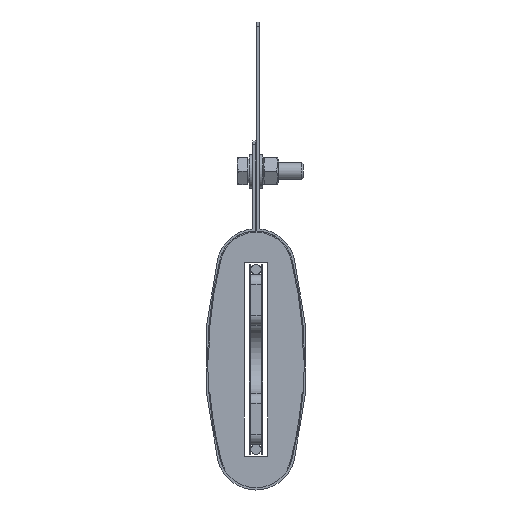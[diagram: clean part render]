
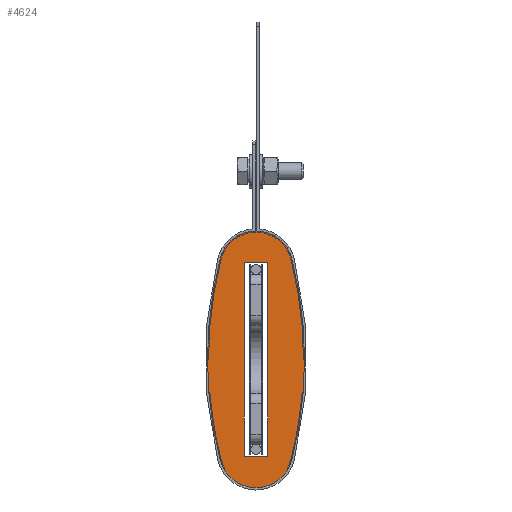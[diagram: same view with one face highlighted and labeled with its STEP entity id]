
A CAD part, front view. The second image highlights one B-rep face of the part: STEP entity #4624.
In plain terms, the highlighted planar face has unit normal (0, -1, 0).
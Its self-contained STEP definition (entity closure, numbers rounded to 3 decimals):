
#428=PLANE($,#5096);
#500=CIRCLE($,#4814,119.768);
#502=CIRCLE($,#4817,119.768);
#507=CIRCLE($,#4823,10.644);
#514=CIRCLE($,#4831,10.644);
#516=CIRCLE($,#4834,10.644);
#521=CIRCLE($,#4842,119.768);
#524=CIRCLE($,#4846,119.768);
#532=CIRCLE($,#4858,120.068);
#538=CIRCLE($,#4867,10.944);
#544=CIRCLE($,#4876,120.068);
#555=CIRCLE($,#4890,10.944);
#573=CIRCLE($,#4916,119.315);
#575=CIRCLE($,#4919,10.625);
#578=CIRCLE($,#4923,119.315);
#579=CIRCLE($,#4925,119.315);
#670=CIRCLE($,#5086,10.625);
#671=CIRCLE($,#5088,10.625);
#672=CIRCLE($,#5090,119.315);
#782=FACE_BOUND($,#1044,.T.);
#783=FACE_BOUND($,#1045,.T.);
#784=FACE_BOUND($,#1046,.T.);
#785=FACE_BOUND($,#1047,.T.);
#786=FACE_BOUND($,#1048,.T.);
#1044=EDGE_LOOP($,(#3765,#3766,#3767,#3768,#3769,#3770));
#1045=EDGE_LOOP($,(#3771,#3772,#3773,#3774));
#1046=EDGE_LOOP($,(#3775,#3776,#3777,#3778));
#1047=EDGE_LOOP($,(#3779,#3780,#3781,#3782));
#1048=EDGE_LOOP($,(#3783,#3784,#3785,#3786));
#1407=LINE($,#7529,#1725);
#1411=LINE($,#7537,#1729);
#1414=LINE($,#7543,#1732);
#1417=LINE($,#7548,#1735);
#1725=VECTOR($,#6255,57.);
#1729=VECTOR($,#6261,7.);
#1732=VECTOR($,#6266,57.);
#1735=VECTOR($,#6271,7.);
#1915=VERTEX_POINT($,#6975);
#1916=VERTEX_POINT($,#6977);
#1918=VERTEX_POINT($,#6982);
#1920=VERTEX_POINT($,#6986);
#1925=VERTEX_POINT($,#7000);
#1936=VERTEX_POINT($,#7023);
#1938=VERTEX_POINT($,#7027);
#1940=VERTEX_POINT($,#7033);
#1947=VERTEX_POINT($,#7052);
#1950=VERTEX_POINT($,#7060);
#1959=VERTEX_POINT($,#7085);
#1960=VERTEX_POINT($,#7087);
#1970=VERTEX_POINT($,#7111);
#1976=VERTEX_POINT($,#7129);
#2001=VERTEX_POINT($,#7207);
#2003=VERTEX_POINT($,#7213);
#2005=VERTEX_POINT($,#7222);
#2096=VERTEX_POINT($,#7519);
#2097=VERTEX_POINT($,#7527);
#2098=VERTEX_POINT($,#7528);
#2101=VERTEX_POINT($,#7536);
#2103=VERTEX_POINT($,#7542);
#2401=EDGE_CURVE($,#1916,#1915,#500,.T.);
#2406=EDGE_CURVE($,#1918,#1920,#502,.T.);
#2413=EDGE_CURVE($,#1925,#1916,#507,.T.);
#2427=EDGE_CURVE($,#1936,#1938,#514,.T.);
#2430=EDGE_CURVE($,#1920,#1940,#516,.T.);
#2439=EDGE_CURVE($,#1938,#1947,#521,.T.);
#2442=EDGE_CURVE($,#1950,#1925,#524,.T.);
#2455=EDGE_CURVE($,#1960,#1959,#532,.T.);
#2466=EDGE_CURVE($,#1970,#1960,#538,.T.);
#2475=EDGE_CURVE($,#1976,#1970,#544,.T.);
#2491=EDGE_CURVE($,#1959,#1976,#555,.T.);
#2517=EDGE_CURVE($,#1918,#2001,#573,.T.);
#2520=EDGE_CURVE($,#1936,#2003,#575,.T.);
#2524=EDGE_CURVE($,#2003,#1947,#578,.T.);
#2525=EDGE_CURVE($,#1950,#2005,#579,.T.);
#2661=EDGE_CURVE($,#2005,#2096,#670,.T.);
#2663=EDGE_CURVE($,#2001,#1940,#671,.T.);
#2664=EDGE_CURVE($,#2096,#1915,#672,.T.);
#2665=EDGE_CURVE($,#2097,#2098,#1407,.T.);
#2669=EDGE_CURVE($,#2098,#2101,#1411,.T.);
#2672=EDGE_CURVE($,#2101,#2103,#1414,.T.);
#2675=EDGE_CURVE($,#2103,#2097,#1417,.T.);
#3765=ORIENTED_EDGE($,*,*,#2664,.F.);
#3766=ORIENTED_EDGE($,*,*,#2661,.F.);
#3767=ORIENTED_EDGE($,*,*,#2525,.F.);
#3768=ORIENTED_EDGE($,*,*,#2442,.T.);
#3769=ORIENTED_EDGE($,*,*,#2413,.T.);
#3770=ORIENTED_EDGE($,*,*,#2401,.T.);
#3771=ORIENTED_EDGE($,*,*,#2406,.T.);
#3772=ORIENTED_EDGE($,*,*,#2430,.T.);
#3773=ORIENTED_EDGE($,*,*,#2663,.F.);
#3774=ORIENTED_EDGE($,*,*,#2517,.F.);
#3775=ORIENTED_EDGE($,*,*,#2466,.T.);
#3776=ORIENTED_EDGE($,*,*,#2455,.T.);
#3777=ORIENTED_EDGE($,*,*,#2491,.T.);
#3778=ORIENTED_EDGE($,*,*,#2475,.T.);
#3779=ORIENTED_EDGE($,*,*,#2427,.T.);
#3780=ORIENTED_EDGE($,*,*,#2439,.T.);
#3781=ORIENTED_EDGE($,*,*,#2524,.F.);
#3782=ORIENTED_EDGE($,*,*,#2520,.F.);
#3783=ORIENTED_EDGE($,*,*,#2665,.T.);
#3784=ORIENTED_EDGE($,*,*,#2669,.T.);
#3785=ORIENTED_EDGE($,*,*,#2672,.T.);
#3786=ORIENTED_EDGE($,*,*,#2675,.T.);
#4624=ADVANCED_FACE($,(#782,#783,#784,#785,#786),#428,.F.);
#4814=AXIS2_PLACEMENT_3D($,#6978,#5608,#5609);
#4817=AXIS2_PLACEMENT_3D($,#6988,#5617,#5618);
#4823=AXIS2_PLACEMENT_3D($,#7001,#5631,#5632);
#4831=AXIS2_PLACEMENT_3D($,#7029,#5654,#5655);
#4834=AXIS2_PLACEMENT_3D($,#7035,#5661,#5662);
#4842=AXIS2_PLACEMENT_3D($,#7055,#5681,#5682);
#4846=AXIS2_PLACEMENT_3D($,#7061,#5689,#5690);
#4858=AXIS2_PLACEMENT_3D($,#7088,#5718,#5719);
#4867=AXIS2_PLACEMENT_3D($,#7112,#5741,#5742);
#4876=AXIS2_PLACEMENT_3D($,#7130,#5762,#5763);
#4890=AXIS2_PLACEMENT_3D($,#7158,#5795,#5796);
#4916=AXIS2_PLACEMENT_3D($,#7208,#5855,#5856);
#4919=AXIS2_PLACEMENT_3D($,#7214,#5862,#5863);
#4923=AXIS2_PLACEMENT_3D($,#7220,#5871,#5872);
#4925=AXIS2_PLACEMENT_3D($,#7223,#5875,#5876);
#5086=AXIS2_PLACEMENT_3D($,#7520,#6242,#6243);
#5088=AXIS2_PLACEMENT_3D($,#7523,#6247,#6248);
#5090=AXIS2_PLACEMENT_3D($,#7525,#6251,#6252);
#5096=AXIS2_PLACEMENT_3D($,#7551,#6275,#6276);
#5608=DIRECTION('center_axis',(0.,1.,0.));
#5609=DIRECTION('ref_axis',(0.969,0.,0.246));
#5617=DIRECTION('center_axis',(0.,1.,0.));
#5618=DIRECTION('ref_axis',(0.969,0.,0.246));
#5631=DIRECTION('center_axis',(0.,1.,0.));
#5632=DIRECTION('ref_axis',(-0.969,0.,0.246));
#5654=DIRECTION('center_axis',(0.,1.,0.));
#5655=DIRECTION('ref_axis',(0.969,0.,-0.246));
#5661=DIRECTION('center_axis',(0.,1.,0.));
#5662=DIRECTION('ref_axis',(0.969,0.,-0.246));
#5681=DIRECTION('center_axis',(0.,1.,0.));
#5682=DIRECTION('ref_axis',(-0.969,0.,-0.246));
#5689=DIRECTION('center_axis',(0.,1.,0.));
#5690=DIRECTION('ref_axis',(-0.969,0.,-0.246));
#5718=DIRECTION('center_axis',(0.,-1.,0.));
#5719=DIRECTION('ref_axis',(0.969,0.,0.246));
#5741=DIRECTION('center_axis',(0.,-1.,0.));
#5742=DIRECTION('ref_axis',(0.969,0.,-0.246));
#5762=DIRECTION('center_axis',(0.,-1.,0.));
#5763=DIRECTION('ref_axis',(-0.969,0.,-0.246));
#5795=DIRECTION('center_axis',(0.,-1.,0.));
#5796=DIRECTION('ref_axis',(-0.969,0.,0.246));
#5855=DIRECTION('center_axis',(0.,1.,0.));
#5856=DIRECTION('ref_axis',(0.969,0.,-0.247));
#5862=DIRECTION('center_axis',(0.,1.,0.));
#5863=DIRECTION('ref_axis',(-0.969,0.,-0.247));
#5871=DIRECTION('center_axis',(0.,1.,0.));
#5872=DIRECTION('ref_axis',(-0.969,0.,0.247));
#5875=DIRECTION('center_axis',(0.,1.,0.));
#5876=DIRECTION('ref_axis',(-0.969,0.,0.247));
#6242=DIRECTION('center_axis',(0.,1.,0.));
#6243=DIRECTION('ref_axis',(0.969,0.,0.247));
#6247=DIRECTION('center_axis',(0.,1.,0.));
#6248=DIRECTION('ref_axis',(-0.969,0.,-0.247));
#6251=DIRECTION('center_axis',(0.,1.,0.));
#6252=DIRECTION('ref_axis',(0.969,0.,-0.247));
#6255=DIRECTION($,(0.,0.,1.));
#6261=DIRECTION($,(1.,0.,0.));
#6266=DIRECTION($,(0.,0.,-1.));
#6271=DIRECTION($,(-1.,0.,0.));
#6275=DIRECTION('center_axis',(0.,1.,0.));
#6276=DIRECTION('ref_axis',(0.,0.,1.));
#6975=CARTESIAN_POINT('',(-40.5,-247.5,-21.491));
#6977=CARTESIAN_POINT('',(-44.184,-247.5,7.994));
#6978=CARTESIAN_POINT('Origin',(-160.268,-247.5,-21.481));
#6982=CARTESIAN_POINT('',(-40.902,-247.5,-31.282));
#6986=CARTESIAN_POINT('',(-44.184,-247.5,-50.957));
#6988=CARTESIAN_POINT('Origin',(-160.268,-247.5,-21.481));
#7000=CARTESIAN_POINT('',(-64.816,-247.5,7.994));
#7001=CARTESIAN_POINT('Origin',(-54.5,-247.5,5.375));
#7023=CARTESIAN_POINT('',(-63.71,-247.5,-53.674));
#7027=CARTESIAN_POINT('',(-64.816,-247.5,-50.957));
#7029=CARTESIAN_POINT('Origin',(-54.5,-247.5,-48.338));
#7033=CARTESIAN_POINT('',(-45.29,-247.5,-53.674));
#7035=CARTESIAN_POINT('Origin',(-54.5,-247.5,-48.338));
#7052=CARTESIAN_POINT('',(-68.098,-247.5,-31.286));
#7055=CARTESIAN_POINT('Origin',(51.268,-247.5,-21.481));
#7060=CARTESIAN_POINT('',(-68.5,-247.5,-21.487));
#7061=CARTESIAN_POINT('Origin',(51.268,-247.5,-21.481));
#7085=CARTESIAN_POINT('',(-43.893,-247.5,8.068));
#7087=CARTESIAN_POINT('',(-43.893,-247.5,-51.031));
#7088=CARTESIAN_POINT('Origin',(-160.268,-247.5,-21.481));
#7111=CARTESIAN_POINT('',(-65.107,-247.5,-51.031));
#7112=CARTESIAN_POINT('Origin',(-54.5,-247.5,-48.338));
#7129=CARTESIAN_POINT('',(-65.107,-247.5,8.068));
#7130=CARTESIAN_POINT('Origin',(51.268,-247.5,-21.481));
#7158=CARTESIAN_POINT('Origin',(-54.5,-247.5,5.375));
#7207=CARTESIAN_POINT('',(-44.205,-247.5,-51.002));
#7208=CARTESIAN_POINT('Origin',(-159.815,-247.5,-21.5));
#7213=CARTESIAN_POINT('',(-64.795,-247.5,-51.002));
#7214=CARTESIAN_POINT('Origin',(-54.5,-247.5,-48.375));
#7220=CARTESIAN_POINT('Origin',(50.815,-247.5,-21.5));
#7222=CARTESIAN_POINT('',(-64.795,-247.5,8.002));
#7223=CARTESIAN_POINT('Origin',(50.815,-247.5,-21.5));
#7519=CARTESIAN_POINT('',(-44.205,-247.5,8.002));
#7520=CARTESIAN_POINT('Origin',(-54.5,-247.5,5.375));
#7523=CARTESIAN_POINT('Origin',(-54.5,-247.5,-48.375));
#7525=CARTESIAN_POINT('Origin',(-159.815,-247.5,-21.5));
#7527=CARTESIAN_POINT('',(-58.,-247.5,-50.));
#7528=CARTESIAN_POINT('',(-58.,-247.5,7.));
#7529=CARTESIAN_POINT($,(-58.,-247.5,-35.75));
#7536=CARTESIAN_POINT('',(-51.,-247.5,7.));
#7537=CARTESIAN_POINT($,(-56.25,-247.5,7.));
#7542=CARTESIAN_POINT('',(-51.,-247.5,-50.));
#7543=CARTESIAN_POINT($,(-51.,-247.5,-7.25));
#7548=CARTESIAN_POINT($,(-52.75,-247.5,-50.));
#7551=CARTESIAN_POINT('Origin',(-54.5,-247.5,-21.5));
